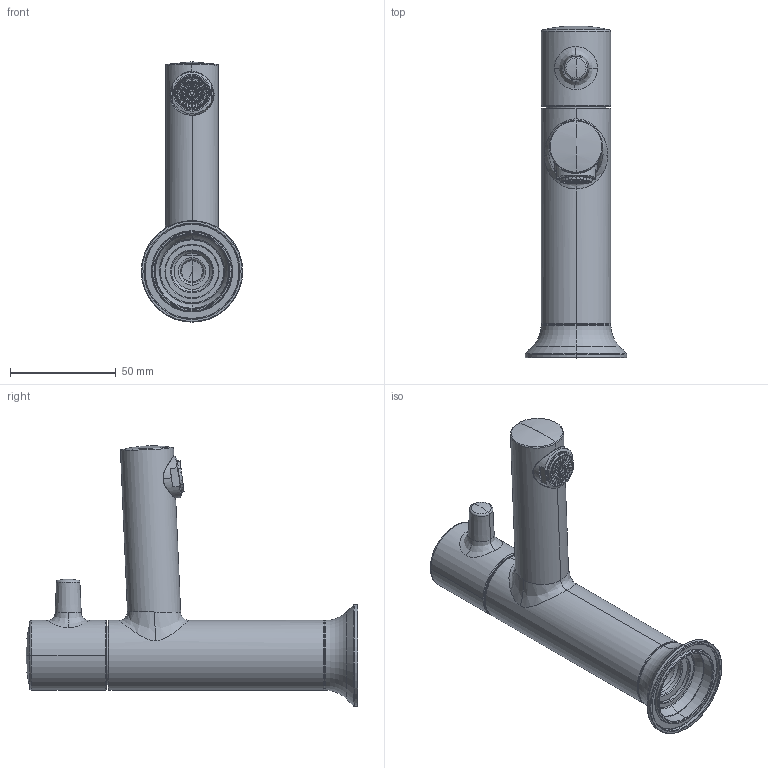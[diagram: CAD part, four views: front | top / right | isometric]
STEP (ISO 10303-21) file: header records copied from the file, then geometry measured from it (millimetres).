
FILE_DESCRIPTION((''),'2;1');
FILE_NAME('48830--00_ASM','2021-12-23T13:18:05',('sosm1'),(''),'CREO PARAMETRIC BY PTC INC, 2018190','CREO PARAMETRIC BY PTC INC, 2018190','');
FILE_SCHEMA(('CONFIG_CONTROL_DESIGN'));
Length unit declared in the file: millimetre
Products named in the file (9): 43843--; 43851--; 43842--_AF1; 43842--_ASM; 44679--; 4416400; 4468000; 43837--_ASM; 48830--00_ASM
Assembly tree (8 placements, depth 3):
  48830--00_ASM
    43843--
    43851--
    43842--_ASM
      43842--_AF1
    43837--_ASM
      44679--
      4416400
      4468000
Bounding box: 48 x 156.92 x 123.04 mm (x, y, z)
Volume: 79319.3 mm3; surface area: 54667.8 mm2
Topology: 7 solids, 7 shells, 1147 faces, 3453 edges, 2219 vertices
Faces by surface type: plane 672, cylinder 201, cone 152, torus 59, bspline 52, sphere 11
Entity records: 43610 total; most frequent: CARTESIAN_POINT 12819, ORIENTED_EDGE 6882, DIRECTION 6110, EDGE_CURVE 3441, VERTEX_POINT 2219, AXIS2_PLACEMENT_3D 2217, VECTOR 1676, LINE 1676
